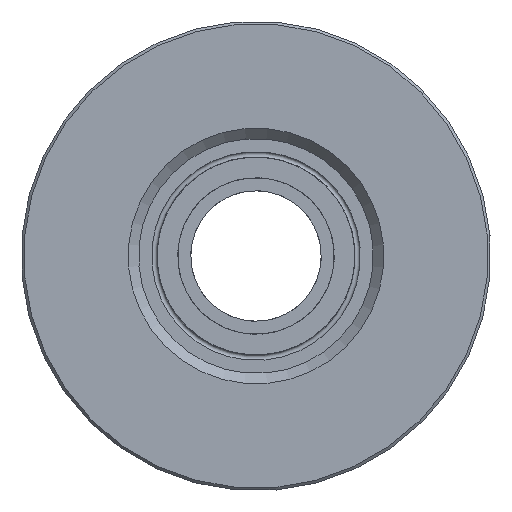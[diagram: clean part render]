
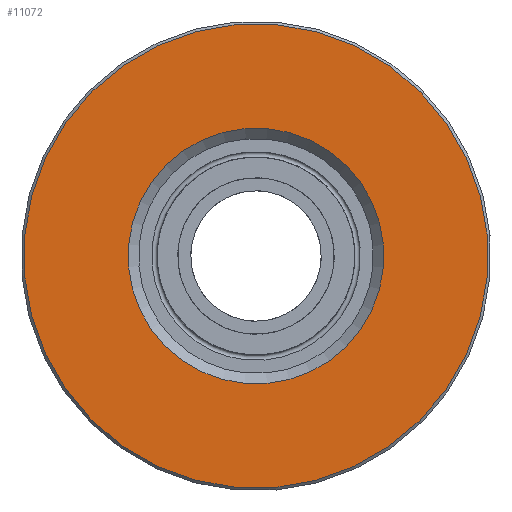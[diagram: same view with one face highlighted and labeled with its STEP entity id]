
A CAD part, front view. The second image highlights one B-rep face of the part: STEP entity #11072.
In plain terms, the highlighted planar face has unit normal (0, -1, 0).
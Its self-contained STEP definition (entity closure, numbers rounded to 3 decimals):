
#11072 = ADVANCED_FACE('',(#11073,#11109),#11086,.F.);
#11073 = FACE_BOUND('',#11074,.T.);
#11074 = EDGE_LOOP('',(#11075));
#11075 = ORIENTED_EDGE('',*,*,#11076,.T.);
#11076 = EDGE_CURVE('',#11077,#11077,#11079,.T.);
#11077 = VERTEX_POINT('',#11078);
#11078 = CARTESIAN_POINT('',(0.,-7.,4.9));
#11079 = SURFACE_CURVE('',#11080,(#11085,#11097),.PCURVE_S1.);
#11080 = CIRCLE('',#11081,4.9);
#11081 = AXIS2_PLACEMENT_3D('',#11082,#11083,#11084);
#11082 = CARTESIAN_POINT('',(0.,-7.,0.));
#11083 = DIRECTION('',(0.,1.,0.));
#11084 = DIRECTION('',(0.,-0.,1.));
#11085 = PCURVE('',#11086,#11091);
#11086 = PLANE('',#11087);
#11087 = AXIS2_PLACEMENT_3D('',#11088,#11089,#11090);
#11088 = CARTESIAN_POINT('',(4.5,-7.,0.));
#11089 = DIRECTION('',(0.,1.,0.));
#11090 = DIRECTION('',(0.,-0.,1.));
#11091 = DEFINITIONAL_REPRESENTATION('',(#11092),#11096);
#11092 = CIRCLE('',#11093,4.9);
#11093 = AXIS2_PLACEMENT_2D('',#11094,#11095);
#11094 = CARTESIAN_POINT('',(0.,-4.5));
#11095 = DIRECTION('',(1.,0.));
#11096 = ( GEOMETRIC_REPRESENTATION_CONTEXT(2) 
PARAMETRIC_REPRESENTATION_CONTEXT() REPRESENTATION_CONTEXT('2D SPACE',''
  ) );
#11097 = PCURVE('',#11098,#11103);
#11098 = CONICAL_SURFACE('',#11099,4.9,0.785);
#11099 = AXIS2_PLACEMENT_3D('',#11100,#11101,#11102);
#11100 = CARTESIAN_POINT('',(0.,-7.,0.));
#11101 = DIRECTION('',(0.,-1.,0.));
#11102 = DIRECTION('',(0.,0.,-1.));
#11103 = DEFINITIONAL_REPRESENTATION('',(#11104),#11108);
#11104 = LINE('',#11105,#11106);
#11105 = CARTESIAN_POINT('',(9.425,0.));
#11106 = VECTOR('',#11107,1.);
#11107 = DIRECTION('',(-1.,0.));
#11108 = ( GEOMETRIC_REPRESENTATION_CONTEXT(2) 
PARAMETRIC_REPRESENTATION_CONTEXT() REPRESENTATION_CONTEXT('2D SPACE',''
  ) );
#11109 = FACE_BOUND('',#11110,.T.);
#11110 = EDGE_LOOP('',(#11111));
#11111 = ORIENTED_EDGE('',*,*,#11112,.T.);
#11112 = EDGE_CURVE('',#11113,#11113,#11115,.T.);
#11113 = VERTEX_POINT('',#11114);
#11114 = CARTESIAN_POINT('',(0.,-7.,8.9));
#11115 = SURFACE_CURVE('',#11116,(#11121,#11132),.PCURVE_S1.);
#11116 = CIRCLE('',#11117,8.9);
#11117 = AXIS2_PLACEMENT_3D('',#11118,#11119,#11120);
#11118 = CARTESIAN_POINT('',(0.,-7.,0.));
#11119 = DIRECTION('',(0.,-1.,0.));
#11120 = DIRECTION('',(0.,0.,1.));
#11121 = PCURVE('',#11086,#11122);
#11122 = DEFINITIONAL_REPRESENTATION('',(#11123),#11131);
#11123 = ( BOUNDED_CURVE() B_SPLINE_CURVE(2,(#11124,#11125,#11126,#11127
    ,#11128,#11129,#11130),.UNSPECIFIED.,.T.,.F.) 
B_SPLINE_CURVE_WITH_KNOTS((1,2,2,2,2,1),(-2.094,0.,
    2.094,4.189,6.283,8.378),
.UNSPECIFIED.) CURVE() GEOMETRIC_REPRESENTATION_ITEM() 
RATIONAL_B_SPLINE_CURVE((1.,0.5,1.,0.5,1.,0.5,1.)) REPRESENTATION_ITEM(
  '') );
#11124 = CARTESIAN_POINT('',(8.9,-4.5));
#11125 = CARTESIAN_POINT('',(8.9,-19.915));
#11126 = CARTESIAN_POINT('',(-4.45,-12.208));
#11127 = CARTESIAN_POINT('',(-17.8,-4.5));
#11128 = CARTESIAN_POINT('',(-4.45,3.208));
#11129 = CARTESIAN_POINT('',(8.9,10.915));
#11130 = CARTESIAN_POINT('',(8.9,-4.5));
#11131 = ( GEOMETRIC_REPRESENTATION_CONTEXT(2) 
PARAMETRIC_REPRESENTATION_CONTEXT() REPRESENTATION_CONTEXT('2D SPACE',''
  ) );
#11132 = PCURVE('',#11133,#11138);
#11133 = CONICAL_SURFACE('',#11134,9.,0.785);
#11134 = AXIS2_PLACEMENT_3D('',#11135,#11136,#11137);
#11135 = CARTESIAN_POINT('',(0.,-6.9,0.));
#11136 = DIRECTION('',(0.,1.,0.));
#11137 = DIRECTION('',(0.,-0.,1.));
#11138 = DEFINITIONAL_REPRESENTATION('',(#11139),#11143);
#11139 = LINE('',#11140,#11141);
#11140 = CARTESIAN_POINT('',(6.283,-0.1));
#11141 = VECTOR('',#11142,1.);
#11142 = DIRECTION('',(-1.,0.));
#11143 = ( GEOMETRIC_REPRESENTATION_CONTEXT(2) 
PARAMETRIC_REPRESENTATION_CONTEXT() REPRESENTATION_CONTEXT('2D SPACE',''
  ) );
